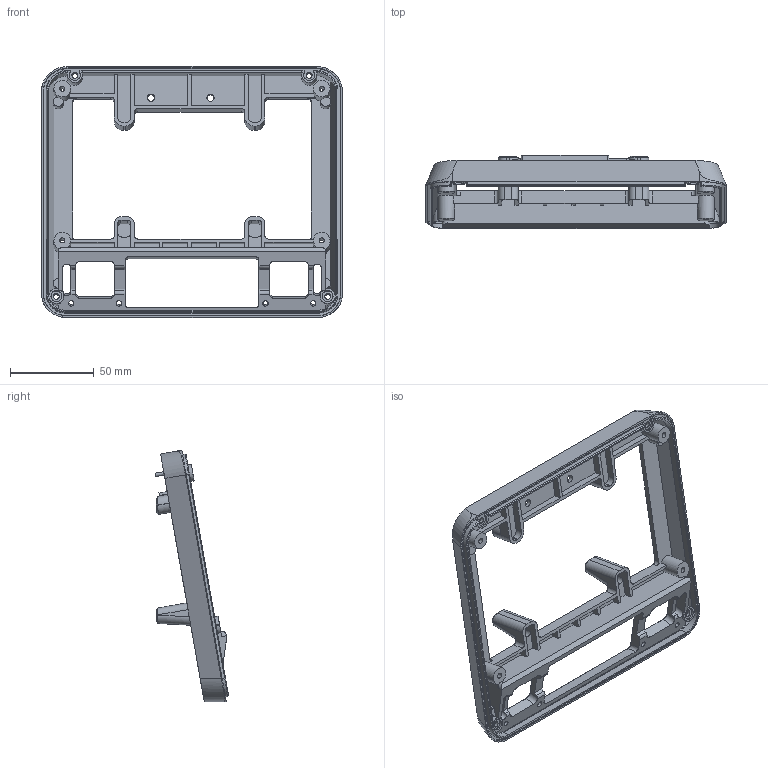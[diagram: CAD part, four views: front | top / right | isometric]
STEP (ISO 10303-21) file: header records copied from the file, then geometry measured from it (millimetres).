
FILE_DESCRIPTION(/* description */ ('STEP AP242 Edition 2','CAx-IF Rec.Pracs.---Representation and Presentation of Product Manufacturing Information (PMI)---4.0---2014-10-13','CAx-IF Rec.Pracs.---3D Tessellated Geometry---0.4---2014-09-14','2;1','CAx-IF Rec.Pracs.---User Defined Attributes---1.5---2016-08-15'),/* implementation_level */ '2;1');
FILE_NAME(/* name */ 'Assy_ForMFG - KD-H-103X_HeadMid',/* time_stamp */ '2026-05-15T19:56:46Z',/* author */ (''),/* organization */ (''),/* preprocessor_version */ 'ST-DEVELOPER v20',/* originating_system */ 'ONSHAPE BY PTC INC, 1.215',/* authorisation */ ' ');
FILE_SCHEMA (('AP242_MANAGED_MODEL_BASED_3D_ENGINEERING_MIM_LF { 1 0 10303 442 3 1 4 }'));
Length unit declared in the file: metre
Products named in the file (1): KD-H-103X_HeadMid
Bounding box: 179.56 x 43.62 x 150.15 mm (x, y, z)
Volume: 82682 mm3; surface area: 63924 mm2
Topology: 1 solids, 1 shells, 516 faces, 1447 edges, 938 vertices
Faces by surface type: plane 268, cylinder 160, bspline 57, cone 31
Full cylindrical faces by diameter (mm): 2.5 x8, 3.1 x4, 3.3 x4, 3.5 x4, 4.3 x2, 5.5 x8, 6.5 x2, 10 x2
Entity records: 18456 total; most frequent: CARTESIAN_POINT 5640, ORIENTED_EDGE 2724, DIRECTION 2517, EDGE_CURVE 1362, VERTEX_POINT 905, AXIS2_PLACEMENT_3D 855, LINE 807, VECTOR 807
